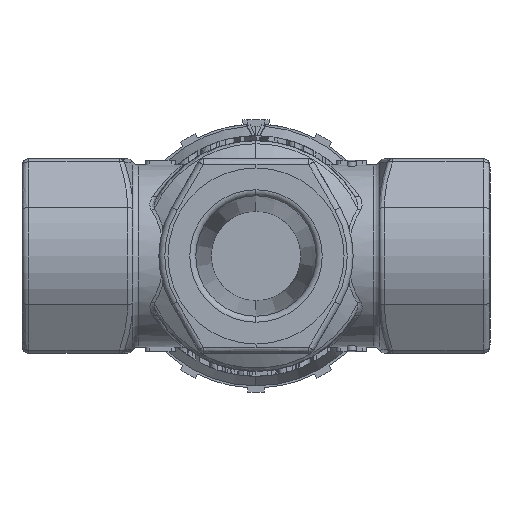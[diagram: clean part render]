
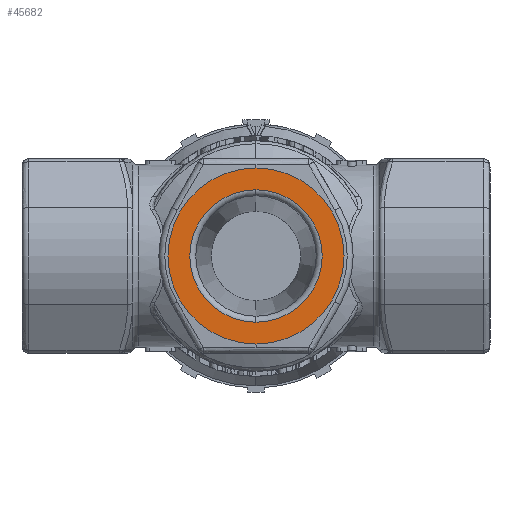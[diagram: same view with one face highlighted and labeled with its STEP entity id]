
A CAD part, front view. The second image highlights one B-rep face of the part: STEP entity #45682.
In plain terms, the highlighted planar face has unit normal (0, -1, 0).
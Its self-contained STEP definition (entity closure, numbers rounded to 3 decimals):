
#1827 = AXIS2_PLACEMENT_3D ( 'NONE', #39956, #18113, #43670 ) ;
#2443 = CIRCLE ( 'NONE', #1827, 14.5 ) ;
#4963 = CARTESIAN_POINT ( 'NONE',  ( -91.238, -35.97, -0.1 ) ) ;
#5877 = EDGE_LOOP ( 'NONE', ( #24321, #22751 ) ) ;
#5888 = EDGE_CURVE ( 'NONE', #40160, #45904, #2443, .T. ) ;
#8223 = DIRECTION ( 'NONE',  ( 0., 1., 0. ) ) ;
#8637 = DIRECTION ( 'NONE',  ( 0., 0., -1. ) ) ;
#11855 = VERTEX_POINT ( 'NONE', #31417 ) ;
#12426 = CARTESIAN_POINT ( 'NONE',  ( -91.238, -35.97, -11.016 ) ) ;
#13526 = EDGE_CURVE ( 'NONE', #45904, #40160, #17365, .T. ) ;
#13660 = AXIS2_PLACEMENT_3D ( 'NONE', #4963, #30427, #8637 ) ;
#15683 = EDGE_LOOP ( 'NONE', ( #33948, #36246 ) ) ;
#16536 = DIRECTION ( 'NONE',  ( 0., 1., 0. ) ) ;
#17365 = CIRCLE ( 'NONE', #43242, 14.5 ) ;
#17418 = CARTESIAN_POINT ( 'NONE',  ( -105.738, -35.97, -0.1 ) ) ;
#18113 = DIRECTION ( 'NONE',  ( 0., 1., 0. ) ) ;
#21082 = DIRECTION ( 'NONE',  ( 0., 0., -1. ) ) ;
#22751 = ORIENTED_EDGE ( 'NONE', *, *, #29363, .T. ) ;
#24321 = ORIENTED_EDGE ( 'NONE', *, *, #31471, .T. ) ;
#24990 = CARTESIAN_POINT ( 'NONE',  ( -91.238, -35.97, -14.6 ) ) ;
#25104 = VERTEX_POINT ( 'NONE', #12426 ) ;
#27977 = PLANE ( 'NONE',  #42253 ) ;
#29016 = FACE_BOUND ( 'NONE', #5877, .T. ) ;
#29363 = EDGE_CURVE ( 'NONE', #11855, #25104, #44988, .T. ) ;
#30023 = CARTESIAN_POINT ( 'NONE',  ( -91.238, -35.97, -0.1 ) ) ;
#30120 = CIRCLE ( 'NONE', #36984, 10.916 ) ;
#30427 = DIRECTION ( 'NONE',  ( 0., 1., 0. ) ) ;
#31417 = CARTESIAN_POINT ( 'NONE',  ( -91.238, -35.97, 10.816 ) ) ;
#31471 = EDGE_CURVE ( 'NONE', #25104, #11855, #30120, .T. ) ;
#33685 = DIRECTION ( 'NONE',  ( 0., 0., -1. ) ) ;
#33948 = ORIENTED_EDGE ( 'NONE', *, *, #13526, .F. ) ;
#36246 = ORIENTED_EDGE ( 'NONE', *, *, #5888, .F. ) ;
#36536 = CARTESIAN_POINT ( 'NONE',  ( -91.238, -35.97, 14.4 ) ) ;
#36984 = AXIS2_PLACEMENT_3D ( 'NONE', #30023, #8223, #33685 ) ;
#38384 = CARTESIAN_POINT ( 'NONE',  ( -91.238, -35.97, -0.1 ) ) ;
#39956 = CARTESIAN_POINT ( 'NONE',  ( -91.238, -35.97, -0.1 ) ) ;
#40160 = VERTEX_POINT ( 'NONE', #24990 ) ;
#42081 = DIRECTION ( 'NONE',  ( 0., 0., 1. ) ) ;
#42253 = AXIS2_PLACEMENT_3D ( 'NONE', #17418, #42963, #21082 ) ;
#42963 = DIRECTION ( 'NONE',  ( 0., -1., 0. ) ) ;
#43242 = AXIS2_PLACEMENT_3D ( 'NONE', #38384, #16536, #42081 ) ;
#43670 = DIRECTION ( 'NONE',  ( 0., 0., 1. ) ) ;
#44988 = CIRCLE ( 'NONE', #13660, 10.916 ) ;
#45682 = ADVANCED_FACE ( 'NONE', ( #29016, #47272 ), #27977, .T. ) ;
#45904 = VERTEX_POINT ( 'NONE', #36536 ) ;
#47272 = FACE_OUTER_BOUND ( 'NONE', #15683, .T. ) ;
